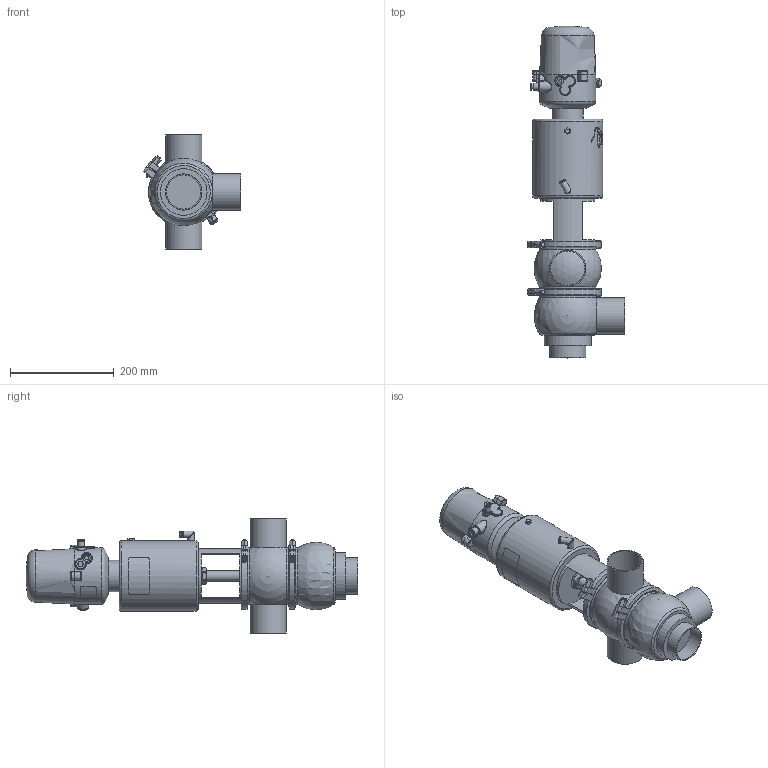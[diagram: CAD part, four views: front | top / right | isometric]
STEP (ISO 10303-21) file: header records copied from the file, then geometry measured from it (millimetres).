
FILE_DESCRIPTION (( 'STEP AP214' ), '1' );
FILE_NAME ('INNOVA K E W DIN 065 T3 AS NC & C-TOP S_10.240.16.0076.STEP', '2024-08-06T09:17:11', ( '' ), ( '' ), 'SwSTEP 2.0', 'SolidWorks 2023', '' );
FILE_SCHEMA (( 'AUTOMOTIVE_DESIGN' ));
Length unit declared in the file: millimetre
Products named in the file (8): 10.240.15.0014_T3 AS P0; 10.240.15.0017_Estàndard; INNOVA K E W DIN 065 T3 AS NC & C-TOP S_10.240.16.0076; 10.240.15.0001_DN 065; 10.240.15.0010_DN 065; 10.240.15.0002_DIN 065; 10.426.15.0001_C-TOP S - 1 EV; 10.240.15.0007_DIN 065
Assembly tree (8 placements, depth 2):
  INNOVA K E W DIN 065 T3 AS NC & C-TOP S_10.240.16.0076
    10.240.15.0007_DIN 065
    10.240.15.0002_DIN 065
    10.240.15.0010_DN 065
    10.240.15.0014_T3 AS P0
    10.240.15.0017_Estàndard
    10.426.15.0001_C-TOP S - 1 EV
    10.240.15.0001_DN 065  x2
Bounding box: 188.15 x 640.5 x 220 mm (x, y, z)
Volume: 6152963.3 mm3; surface area: 499080 mm2
Topology: 8 solids, 8 shells, 1179 faces, 2843 edges, 1894 vertices
Faces by surface type: plane 414, cylinder 358, cone 201, bspline 160, torus 37, sphere 9
Full cylindrical faces by diameter (mm): 0.371 x17, 0.512 x16, 0.658 x16, 0.795 x16, 0.94 x15, 1.098 x15, 1.241 x13, 1.382 x13, 1.523 x11, 1.669 x10, 2.201 x1, 4 x2, 5.5 x2, 6 x2, 6.15 x1, 8 x6, 8.5 x1, 10 x1, 10.5 x1, 11 x2, 12.5 x3, 13 x2, 13.5 x2, 16 x1, 17 x3, 20 x3, 20.5 x1, 22 x2, 31 x1, 34.5 x3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
Entity records: 58191 total; most frequent: CARTESIAN_POINT 27875, ORIENTED_EDGE 4524, DIRECTION 3675, EDGE_CURVE 2262, VERTEX_POINT 1612, EDGE_LOOP 1584, AXIS2_PLACEMENT_3D 1509, FACE_OUTER_BOUND 1340
